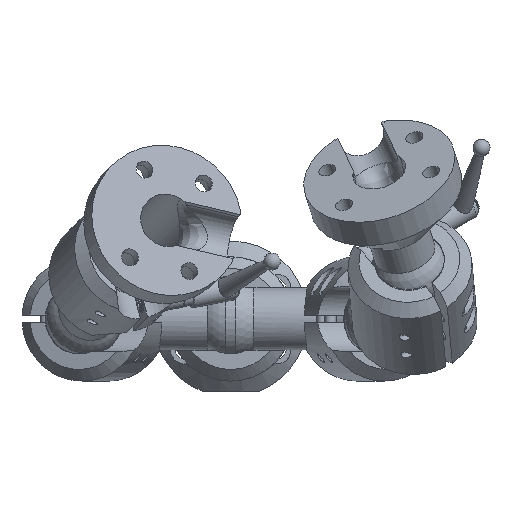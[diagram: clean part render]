
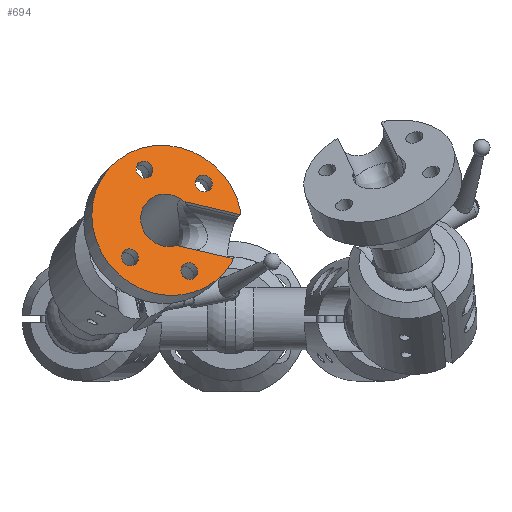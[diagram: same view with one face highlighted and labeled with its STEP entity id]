
A CAD part, front view. The second image highlights one B-rep face of the part: STEP entity #694.
In plain terms, the highlighted planar face has unit normal (0.257, -0.931, 0.259) as drawn and (-1, 0, 0) by its records, which use the part's own axes.
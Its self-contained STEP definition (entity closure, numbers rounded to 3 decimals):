
#694 = ADVANCED_FACE( '', ( #1339, #1340, #1341, #1342, #1343 ), #1344, .T. );
#1339 = FACE_BOUND( '', #3287, .T. );
#1340 = FACE_BOUND( '', #3288, .T. );
#1341 = FACE_BOUND( '', #3289, .T. );
#1342 = FACE_BOUND( '', #3290, .T. );
#1343 = FACE_OUTER_BOUND( '', #3291, .T. );
#1344 = PLANE( '', #3292 );
#3287 = EDGE_LOOP( '', ( #5955 ) );
#3288 = EDGE_LOOP( '', ( #5956 ) );
#3289 = EDGE_LOOP( '', ( #5957 ) );
#3290 = EDGE_LOOP( '', ( #5958 ) );
#3291 = EDGE_LOOP( '', ( #5959, #5960, #5961, #5962, #5963, #5964, #5965, #5966 ) );
#3292 = AXIS2_PLACEMENT_3D( '', #5967, #5968, #5969 );
#5955 = ORIENTED_EDGE( '', *, *, #7743, .F. );
#5956 = ORIENTED_EDGE( '', *, *, #7744, .F. );
#5957 = ORIENTED_EDGE( '', *, *, #7745, .F. );
#5958 = ORIENTED_EDGE( '', *, *, #7746, .F. );
#5959 = ORIENTED_EDGE( '', *, *, #7747, .T. );
#5960 = ORIENTED_EDGE( '', *, *, #7748, .T. );
#5961 = ORIENTED_EDGE( '', *, *, #7680, .F. );
#5962 = ORIENTED_EDGE( '', *, *, #7749, .T. );
#5963 = ORIENTED_EDGE( '', *, *, #7750, .F. );
#5964 = ORIENTED_EDGE( '', *, *, #7751, .T. );
#5965 = ORIENTED_EDGE( '', *, *, #7752, .F. );
#5966 = ORIENTED_EDGE( '', *, *, #7753, .T. );
#5967 = CARTESIAN_POINT( '', ( -53.975, 0., 0. ) );
#5968 = DIRECTION( '', ( -1., 0., 0. ) );
#5969 = DIRECTION( '', ( 0., 0., 1. ) );
#7680 = EDGE_CURVE( '', #8732, #8728, #8734, .T. );
#7743 = EDGE_CURVE( '', #8831, #8831, #8832, .T. );
#7744 = EDGE_CURVE( '', #8833, #8833, #8834, .T. );
#7745 = EDGE_CURVE( '', #8835, #8835, #8836, .T. );
#7746 = EDGE_CURVE( '', #8837, #8837, #8838, .T. );
#7747 = EDGE_CURVE( '', #8839, #8840, #8841, .T. );
#7748 = EDGE_CURVE( '', #8840, #8728, #8842, .T. );
#7749 = EDGE_CURVE( '', #8732, #8843, #8844, .T. );
#7750 = EDGE_CURVE( '', #8845, #8843, #8846, .T. );
#7751 = EDGE_CURVE( '', #8845, #8847, #8848, .T. );
#7752 = EDGE_CURVE( '', #8849, #8847, #8850, .T. );
#7753 = EDGE_CURVE( '', #8849, #8839, #8851, .T. );
#8728 = VERTEX_POINT( '', #13117 );
#8732 = VERTEX_POINT( '', #13123 );
#8734 = LINE( '', #13151, #13152 );
#8831 = VERTEX_POINT( '', #13377 );
#8832 = CIRCLE( '', #13378, 3.572 );
#8833 = VERTEX_POINT( '', #13379 );
#8834 = CIRCLE( '', #13380, 3.572 );
#8835 = VERTEX_POINT( '', #13381 );
#8836 = CIRCLE( '', #13382, 3.572 );
#8837 = VERTEX_POINT( '', #13383 );
#8838 = CIRCLE( '', #13384, 3.572 );
#8839 = VERTEX_POINT( '', #13385 );
#8840 = VERTEX_POINT( '', #13386 );
#8841 = CIRCLE( '', #13387, 31.75 );
#8842 = LINE( '', #13388, #13389 );
#8843 = VERTEX_POINT( '', #13390 );
#8844 = B_SPLINE_CURVE_WITH_KNOTS( '', 3, ( #13391, #13392, #13393, #13394, #13395, #13396 ), .UNSPECIFIED., .F., .F., ( 4, 2, 4 ), ( 0., 0.001, 0.002 ), .UNSPECIFIED. );
#8845 = VERTEX_POINT( '', #13397 );
#8846 = CIRCLE( '', #13398, 11.113 );
#8847 = VERTEX_POINT( '', #13399 );
#8848 = B_SPLINE_CURVE_WITH_KNOTS( '', 3, ( #13400, #13401, #13402, #13403, #13404, #13405 ), .UNSPECIFIED., .F., .F., ( 4, 2, 4 ), ( 0., 0.001, 0.002 ), .UNSPECIFIED. );
#8849 = VERTEX_POINT( '', #13406 );
#8850 = LINE( '', #13407, #13408 );
#8851 = LINE( '', #13409, #13410 );
#13117 = CARTESIAN_POINT( '', ( -53.975, -29.845, -9.525 ) );
#13123 = CARTESIAN_POINT( '', ( -53.975, -6.198, -9.525 ) );
#13151 = CARTESIAN_POINT( '', ( -53.975, 0., -9.525 ) );
#13152 = VECTOR( '', #16765, 1000. );
#13377 = CARTESIAN_POINT( '', ( -53.975, 12.7, 22.622 ) );
#13378 = AXIS2_PLACEMENT_3D( '', #16855, #16856, #16857 );
#13379 = CARTESIAN_POINT( '', ( -53.975, 12.7, -15.478 ) );
#13380 = AXIS2_PLACEMENT_3D( '', #16858, #16859, #16860 );
#13381 = CARTESIAN_POINT( '', ( -53.975, -12.7, -15.478 ) );
#13382 = AXIS2_PLACEMENT_3D( '', #16861, #16862, #16863 );
#13383 = CARTESIAN_POINT( '', ( -53.975, -12.7, 22.622 ) );
#13384 = AXIS2_PLACEMENT_3D( '', #16864, #16865, #16866 );
#13385 = CARTESIAN_POINT( '', ( -53.975, -29.845, 10.832 ) );
#13386 = CARTESIAN_POINT( '', ( -53.975, -29.845, -10.832 ) );
#13387 = AXIS2_PLACEMENT_3D( '', #16867, #16868, #16869 );
#13388 = CARTESIAN_POINT( '', ( -53.975, -29.845, -10.832 ) );
#13389 = VECTOR( '', #16870, 1000. );
#13390 = CARTESIAN_POINT( '', ( -53.975, -4.603, -10.114 ) );
#13391 = CARTESIAN_POINT( '', ( -53.975, -6.198, -9.525 ) );
#13392 = CARTESIAN_POINT( '', ( -53.975, -5.926, -9.604 ) );
#13393 = CARTESIAN_POINT( '', ( -53.975, -5.656, -9.693 ) );
#13394 = CARTESIAN_POINT( '', ( -53.975, -5.124, -9.889 ) );
#13395 = CARTESIAN_POINT( '', ( -53.975, -4.862, -9.997 ) );
#13396 = CARTESIAN_POINT( '', ( -53.975, -4.603, -10.114 ) );
#13397 = CARTESIAN_POINT( '', ( -53.975, -4.603, 10.114 ) );
#13398 = AXIS2_PLACEMENT_3D( '', #16871, #16872, #16873 );
#13399 = CARTESIAN_POINT( '', ( -53.975, -6.198, 9.525 ) );
#13400 = CARTESIAN_POINT( '', ( -53.975, -4.603, 10.114 ) );
#13401 = CARTESIAN_POINT( '', ( -53.975, -4.862, 9.997 ) );
#13402 = CARTESIAN_POINT( '', ( -53.975, -5.124, 9.889 ) );
#13403 = CARTESIAN_POINT( '', ( -53.975, -5.656, 9.693 ) );
#13404 = CARTESIAN_POINT( '', ( -53.975, -5.926, 9.604 ) );
#13405 = CARTESIAN_POINT( '', ( -53.975, -6.198, 9.525 ) );
#13406 = CARTESIAN_POINT( '', ( -53.975, -29.845, 9.525 ) );
#13407 = CARTESIAN_POINT( '', ( -53.975, -38.1, 9.525 ) );
#13408 = VECTOR( '', #16874, 1000. );
#13409 = CARTESIAN_POINT( '', ( -53.975, -29.845, -10.832 ) );
#13410 = VECTOR( '', #16875, 1000. );
#16765 = DIRECTION( '', ( 0., -1., 0. ) );
#16855 = CARTESIAN_POINT( '', ( -53.975, 12.7, 19.05 ) );
#16856 = DIRECTION( '', ( -1., 0., 0. ) );
#16857 = DIRECTION( '', ( 0., 0., 1. ) );
#16858 = CARTESIAN_POINT( '', ( -53.975, 12.7, -19.05 ) );
#16859 = DIRECTION( '', ( -1., 0., 0. ) );
#16860 = DIRECTION( '', ( 0., 0., 1. ) );
#16861 = CARTESIAN_POINT( '', ( -53.975, -12.7, -19.05 ) );
#16862 = DIRECTION( '', ( -1., 0., 0. ) );
#16863 = DIRECTION( '', ( 0., 0., 1. ) );
#16864 = CARTESIAN_POINT( '', ( -53.975, -12.7, 19.05 ) );
#16865 = DIRECTION( '', ( -1., 0., 0. ) );
#16866 = DIRECTION( '', ( 0., 0., 1. ) );
#16867 = CARTESIAN_POINT( '', ( -53.975, 0., 0. ) );
#16868 = DIRECTION( '', ( -1., 0., 0. ) );
#16869 = DIRECTION( '', ( 0., 0., 1. ) );
#16870 = DIRECTION( '', ( 0., 0., 1. ) );
#16871 = CARTESIAN_POINT( '', ( -53.975, 0., 0. ) );
#16872 = DIRECTION( '', ( -1., 0., 0. ) );
#16873 = DIRECTION( '', ( 0., 1., 0. ) );
#16874 = DIRECTION( '', ( 0., 1., 0. ) );
#16875 = DIRECTION( '', ( 0., 0., 1. ) );
